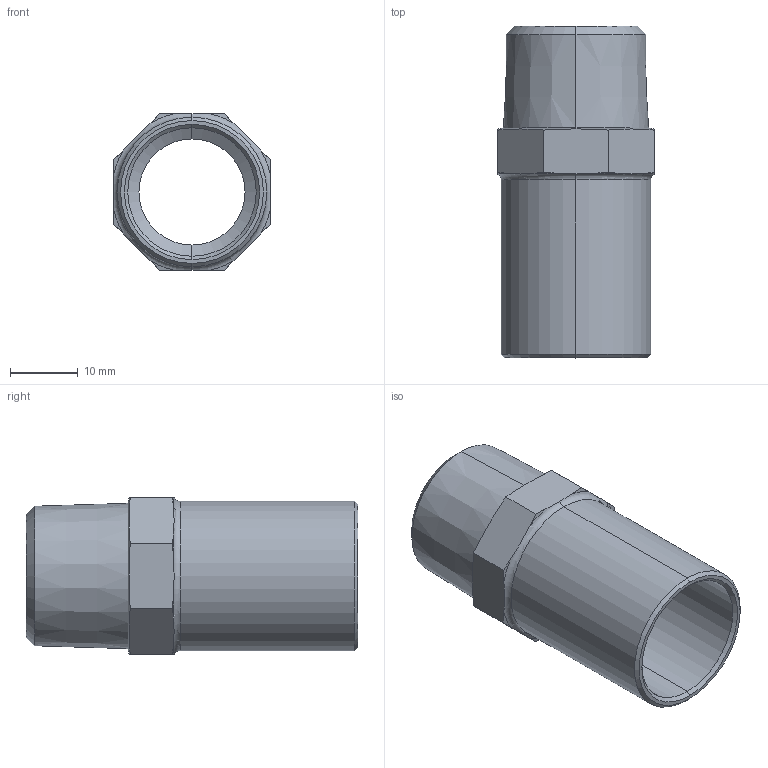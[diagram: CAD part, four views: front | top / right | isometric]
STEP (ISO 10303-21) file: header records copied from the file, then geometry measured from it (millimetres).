
FILE_DESCRIPTION (( 'STEP AP203' ), '1' );
FILE_NAME ('SP4280G Ø22 1-2.STEP', '2017-04-26T09:06:44', ( '' ), ( '' ), 'SwSTEP 2.0', 'SolidWorks 2016', '' );
FILE_SCHEMA (( 'CONFIG_CONTROL_DESIGN' ));
Length unit declared in the file: millimetre
Products named in the file (1): SP4280G Ø22 1-2
Bounding box: 23 x 48.8 x 23 mm (x, y, z)
Volume: 6289.5 mm3; surface area: 6360.6 mm2
Topology: 1 solids, 1 shells, 40 faces, 98 edges, 60 vertices
Faces by surface type: cone 22, plane 10, cylinder 6, torus 2
Entity records: 1357 total; most frequent: CARTESIAN_POINT 379, ORIENTED_EDGE 196, DIRECTION 178, EDGE_CURVE 98, AXIS2_PLACEMENT_3D 75, VERTEX_POINT 60, EDGE_LOOP 42, FACE_OUTER_BOUND 40
